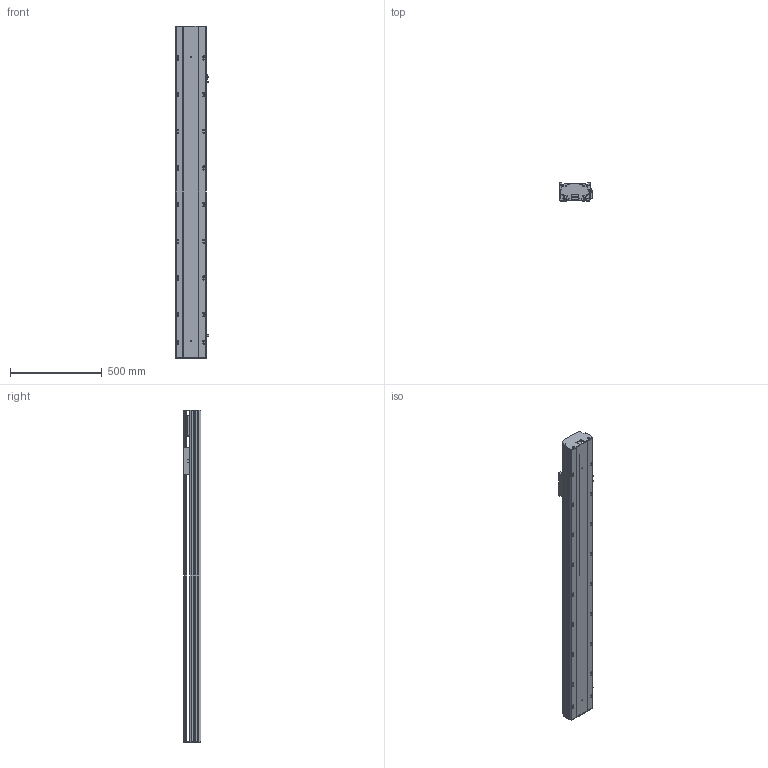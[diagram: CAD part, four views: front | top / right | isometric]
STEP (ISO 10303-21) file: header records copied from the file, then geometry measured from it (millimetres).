
FILE_DESCRIPTION (( 'STEP AP203' ), '1' );
FILE_NAME ('Y170-D10-S1400-M-P400W.STEP', '2020-01-22T13:59:37', ( '微软用户' ), ( '微软中国' ), 'SwSTEP 2.0', 'SolidWorks 2017', '' );
FILE_SCHEMA (( 'CONFIG_CONTROL_DESIGN' ));
Length unit declared in the file: millimetre
Products named in the file (10): Y170--雄赽釱-梓--; 170--掛极-M; Y170耜裔--準---M; san松下电机400不带刹车----; Y170-陔遴奻裔-M; YD-Y100-135-新外置传感挡片(通用）; Y170-D10-S1400-M-P400W; Y100-135俋离換覜ん; 135-盓傅釱-FK15; Y170耜裔--準---
Assembly tree (11 placements, depth 2):
  Y170-D10-S1400-M-P400W
    YD-Y100-135-新外置传感挡片(通用）
    Y100-135俋离換覜ん  x3
    135-盓傅釱-FK15
    Y170耜裔--準---
    Y170--雄赽釱-梓--
    170--掛极-M
    Y170耜裔--準---M
    san松下电机400不带刹车----
    Y170-陔遴奻裔-M
Bounding box: 183.5 x 97 x 1811 mm (x, y, z)
Volume: 7528786.9 mm3; surface area: 2702942.3 mm2
Topology: 11 solids, 11 shells, 821 faces, 2372 edges, 1572 vertices
Faces by surface type: cylinder 435, plane 384, torus 2
Entity records: 27100 total; most frequent: CARTESIAN_POINT 4985, DIRECTION 4462, ORIENTED_EDGE 4408, EDGE_CURVE 2204, AXIS2_PLACEMENT_3D 1593, VERTEX_POINT 1460, VECTOR 1276, LINE 1276
